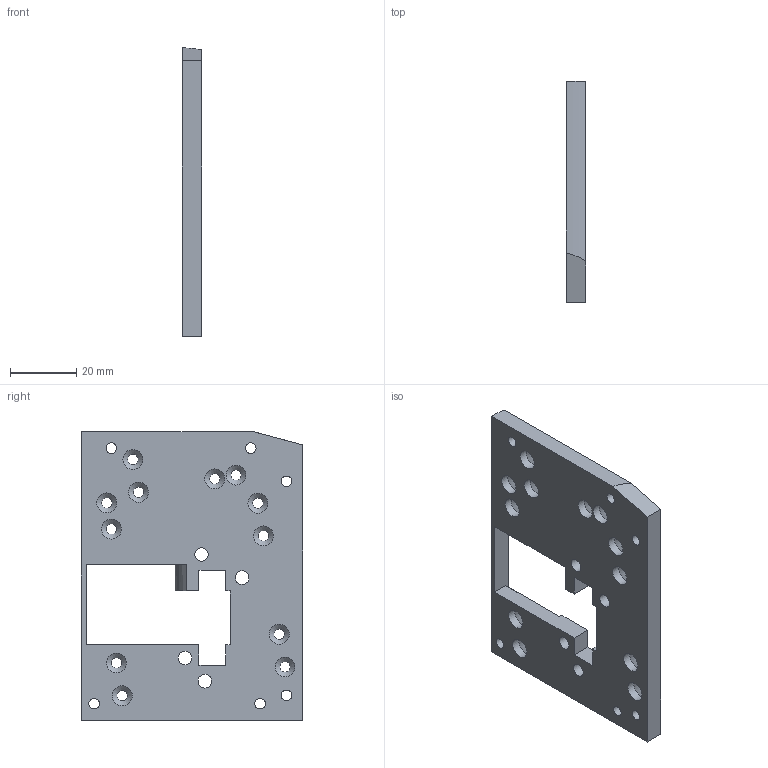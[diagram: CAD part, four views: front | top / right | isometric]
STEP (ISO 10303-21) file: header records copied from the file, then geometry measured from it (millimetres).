
FILE_DESCRIPTION(/* description */ (''),/* implementation_level */ '2;1');
FILE_NAME(/* name */ '4-23-1 Wheel plate left.step',/* time_stamp */ '2025-05-10T22:18:42+02:00',/* author */ (''),/* organization */ (''),/* preprocessor_version */ 'ST-DEVELOPER v20.1',/* originating_system */ 'Autodesk Translation Framework v14.4.0.0',/* authorisation */ '');
FILE_SCHEMA (('AUTOMOTIVE_DESIGN { 1 0 10303 214 3 1 1 }'));
Length unit declared in the file: millimetre
Products named in the file (1): Wheel plate left
Bounding box: 5.8 x 66.6 x 86.95 mm (x, y, z)
Volume: 24860.2 mm3; surface area: 13448.8 mm2
Topology: 1 solids, 1 shells, 87 faces, 221 edges, 143 vertices
Faces by surface type: cylinder 42, plane 33, cone 12
Full cylindrical faces by diameter (mm): 3.2 x18, 4.1 x4, 6 x18
Entity records: 2779 total; most frequent: DIRECTION 493, CARTESIAN_POINT 452, ORIENTED_EDGE 442, EDGE_CURVE 221, AXIS2_PLACEMENT_3D 184, VERTEX_POINT 143, EDGE_LOOP 140, LINE 125
